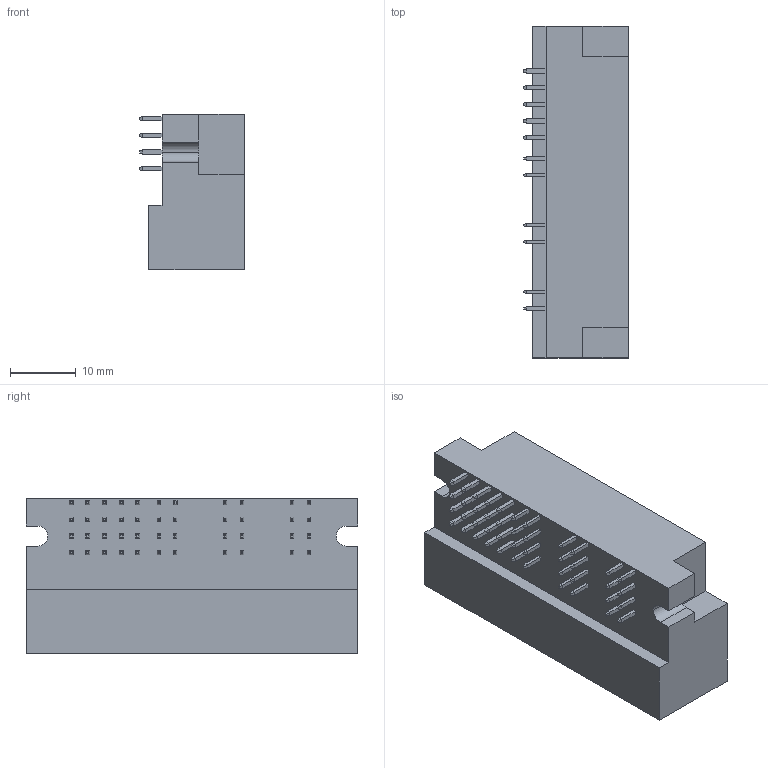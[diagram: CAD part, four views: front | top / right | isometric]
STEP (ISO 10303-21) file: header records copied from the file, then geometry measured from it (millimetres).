
FILE_DESCRIPTION (( 'STEP AP214' ), '1' );
FILE_NAME ('9303-1H05S20CB30DA-L010.STEP', '2020-05-08T11:51:10', ( '' ), ( '' ), 'SwSTEP 2.0', 'SolidWorks 2011', '' );
FILE_SCHEMA (( 'AUTOMOTIVE_DESIGN' ));
Length unit declared in the file: millimetre
Products named in the file (1): 9303-1H05S20CB30DA-L010
Bounding box: 16 x 50.55 x 23.62 mm (x, y, z)
Volume: 10872.5 mm3; surface area: 6813.3 mm2
Topology: 1 solids, 1 shells, 796 faces, 1862 edges, 1148 vertices
Faces by surface type: plane 672, cylinder 100, bspline 24
Entity records: 31611 total; most frequent: CARTESIAN_POINT 4839, ORIENTED_EDGE 3724, DIRECTION 3475, EDGE_CURVE 1862, VECTOR 1651, LINE 1651, VERTEX_POINT 1148, AXIS2_PLACEMENT_3D 912
